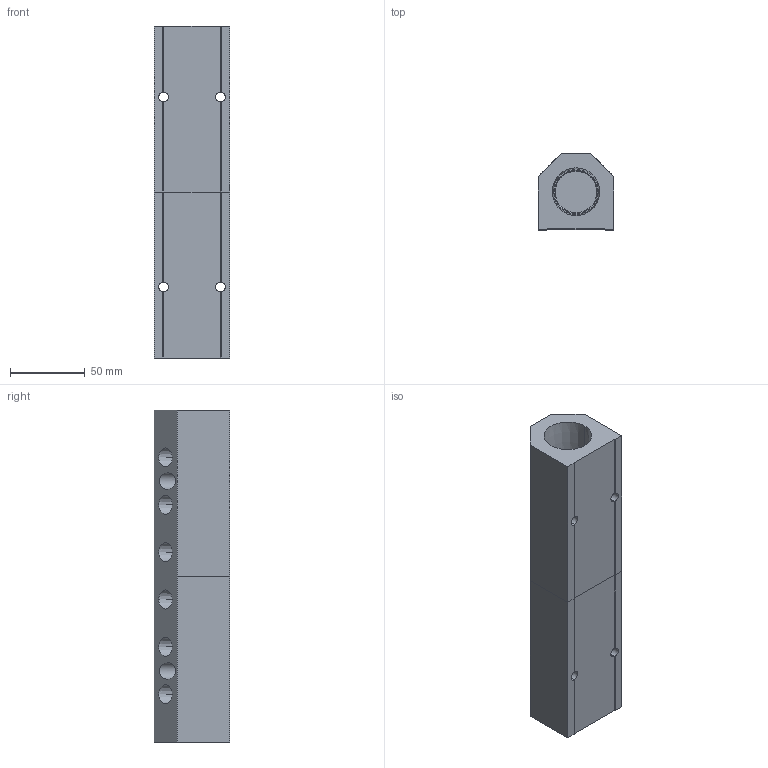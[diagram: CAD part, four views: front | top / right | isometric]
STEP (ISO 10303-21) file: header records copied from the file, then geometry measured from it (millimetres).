
FILE_DESCRIPTION (( 'STEP AP214' ), '1' );
FILE_NAME ('ALM6BD-N4N16-222RB.STEP', '2023-11-02T06:13:20', ( '' ), ( '' ), 'SwSTEP 2.0', 'SolidWorks 2020', '' );
FILE_SCHEMA (( 'AUTOMOTIVE_DESIGN' ));
Length unit declared in the file: millimetre
Products named in the file (1): ALM6BD-N4N16-222RB
Bounding box: 50.8 x 50.8 x 222 mm (x, y, z)
Volume: 349253.9 mm3; surface area: 76109 mm2
Topology: 2 solids, 2 shells, 360 faces, 938 edges, 620 vertices
Faces by surface type: plane 236, bspline 68, cone 32, cylinder 24
Entity records: 19569 total; most frequent: CARTESIAN_POINT 7807, ORIENTED_EDGE 1876, DIRECTION 1420, EDGE_CURVE 938, VECTOR 690, LINE 690, VERTEX_POINT 620, EDGE_LOOP 430
